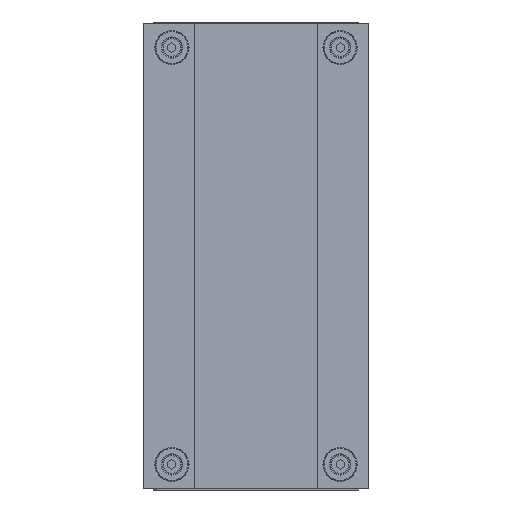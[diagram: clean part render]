
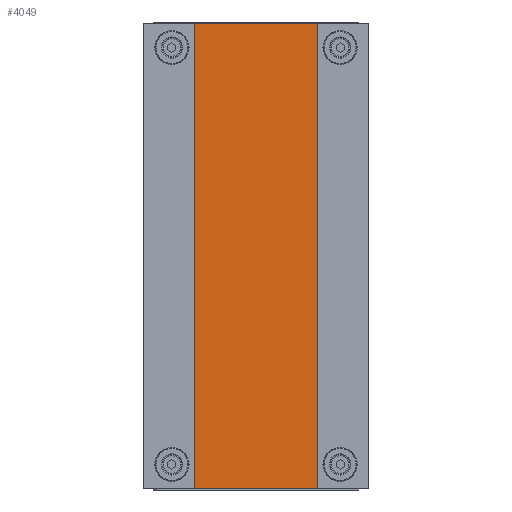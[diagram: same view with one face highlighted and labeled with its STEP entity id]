
A CAD part, front view. The second image highlights one B-rep face of the part: STEP entity #4049.
In plain terms, the highlighted planar face has unit normal (0, -1, 0).
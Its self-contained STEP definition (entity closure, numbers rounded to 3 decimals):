
#1200 = VERTEX_POINT ( 'NONE', #5671 ) ;
#2014 = EDGE_CURVE ( 'NONE', #2278, #1200, #6209, .T. ) ;
#2278 = VERTEX_POINT ( 'NONE', #6432 ) ;
#3245 = CARTESIAN_POINT ( 'NONE',  ( 49.5, -16., -173. ) ) ;
#3280 = VERTEX_POINT ( 'NONE', #7121 ) ;
#4049 = ADVANCED_FACE ( 'NONE', ( #7544 ), #7545, .F. ) ;
#4168 = EDGE_CURVE ( 'NONE', #3280, #8790, #7585, .T. ) ;
#4406 = EDGE_LOOP ( 'NONE', ( #4922, #5860, #6402, #7303 ) ) ;
#4922 = ORIENTED_EDGE ( 'NONE', *, *, #5294, .T. ) ;
#5294 = EDGE_CURVE ( 'NONE', #1200, #8790, #8122, .T. ) ;
#5671 = CARTESIAN_POINT ( 'NONE',  ( -49.5, -16., -173. ) ) ;
#5860 = ORIENTED_EDGE ( 'NONE', *, *, #4168, .F. ) ;
#6209 = LINE ( 'NONE', #6215, #6216 ) ;
#6215 = CARTESIAN_POINT ( 'NONE',  ( -49.5, -16., 173. ) ) ;
#6216 = VECTOR ( 'NONE', #6217, 1000. ) ;
#6217 = DIRECTION ( 'NONE',  ( 0., 0., -1. ) ) ;
#6402 = ORIENTED_EDGE ( 'NONE', *, *, #6742, .F. ) ;
#6432 = CARTESIAN_POINT ( 'NONE',  ( -49.5, -16., 173. ) ) ;
#6742 = EDGE_CURVE ( 'NONE', #2278, #3280, #8810, .T. ) ;
#7121 = CARTESIAN_POINT ( 'NONE',  ( 49.5, -16., 173. ) ) ;
#7303 = ORIENTED_EDGE ( 'NONE', *, *, #2014, .T. ) ;
#7544 = FACE_OUTER_BOUND ( 'NONE', #4406, .T. ) ;
#7545 = PLANE ( 'NONE',  #7546 ) ;
#7546 = AXIS2_PLACEMENT_3D ( 'NONE', #7547, #7548, #7549 ) ;
#7547 = CARTESIAN_POINT ( 'NONE',  ( 49.5, -16., 173. ) ) ;
#7548 = DIRECTION ( 'NONE',  ( 0., 1., 0. ) ) ;
#7549 = DIRECTION ( 'NONE',  ( -1., 0., 0. ) ) ;
#7585 = LINE ( 'NONE', #7586, #7587 ) ;
#7586 = CARTESIAN_POINT ( 'NONE',  ( 49.5, -16., 173. ) ) ;
#7587 = VECTOR ( 'NONE', #7588, 1000. ) ;
#7588 = DIRECTION ( 'NONE',  ( 0., 0., -1. ) ) ;
#8122 = LINE ( 'NONE', #8123, #8124 ) ;
#8123 = CARTESIAN_POINT ( 'NONE',  ( 49.5, -16., -173. ) ) ;
#8124 = VECTOR ( 'NONE', #8125, 1000. ) ;
#8125 = DIRECTION ( 'NONE',  ( 1., 0., 0. ) ) ;
#8790 = VERTEX_POINT ( 'NONE', #3245 ) ;
#8810 = LINE ( 'NONE', #8811, #8812 ) ;
#8811 = CARTESIAN_POINT ( 'NONE',  ( 49.5, -16., 173. ) ) ;
#8812 = VECTOR ( 'NONE', #8813, 1000. ) ;
#8813 = DIRECTION ( 'NONE',  ( 1., 0., 0. ) ) ;
